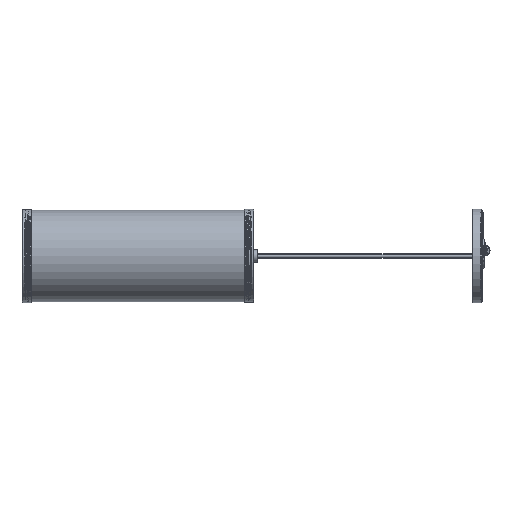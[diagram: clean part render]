
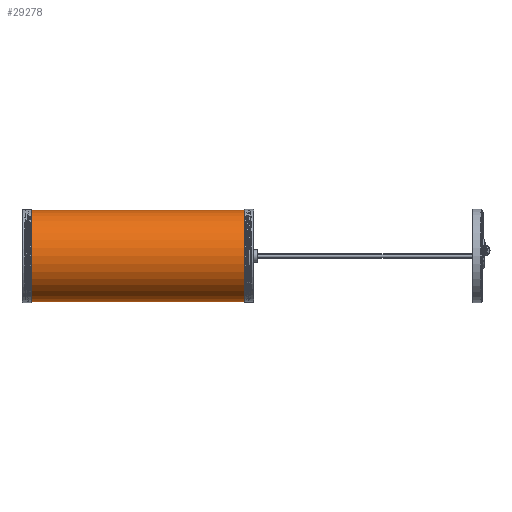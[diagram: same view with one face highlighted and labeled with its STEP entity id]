
A CAD part, left-side view. The second image highlights one B-rep face of the part: STEP entity #29278.
In plain terms, the highlighted cylindrical face has radius 147 mm (diameter 294 mm), a partial arc.
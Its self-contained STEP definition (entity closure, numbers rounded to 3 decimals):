
#543 = AXIS2_PLACEMENT_3D ( 'NONE', #2819, #28507, #48939 ) ;
#896 = CIRCLE ( 'NONE', #41923, 147. ) ;
#1218 = LINE ( 'NONE', #21373, #57476 ) ;
#1278 = CARTESIAN_POINT ( 'NONE',  ( 0., -353., 0. ) ) ;
#2715 = CARTESIAN_POINT ( 'NONE',  ( 0., 0., 147. ) ) ;
#2819 = CARTESIAN_POINT ( 'NONE',  ( 0., 0., 0. ) ) ;
#3428 = VECTOR ( 'NONE', #57783, 1000. ) ;
#7483 = DIRECTION ( 'NONE',  ( 0., 1., 0. ) ) ;
#16954 = CARTESIAN_POINT ( 'NONE',  ( 0., -353., -147. ) ) ;
#17596 = VERTEX_POINT ( 'NONE', #59951 ) ;
#19669 = ORIENTED_EDGE ( 'NONE', *, *, #34300, .T. ) ;
#20119 = DIRECTION ( 'NONE',  ( 0., -1., 0. ) ) ;
#20439 = CARTESIAN_POINT ( 'NONE',  ( 0., 353., 0. ) ) ;
#20478 = ORIENTED_EDGE ( 'NONE', *, *, #64877, .F. ) ;
#21373 = CARTESIAN_POINT ( 'NONE',  ( 0., 0., -147. ) ) ;
#21823 = EDGE_CURVE ( 'NONE', #22571, #23931, #22206, .T. ) ;
#22206 = LINE ( 'NONE', #2715, #3428 ) ;
#22571 = VERTEX_POINT ( 'NONE', #42437 ) ;
#23931 = VERTEX_POINT ( 'NONE', #36148 ) ;
#28507 = DIRECTION ( 'NONE',  ( 0., 1., 0. ) ) ;
#29278 = ADVANCED_FACE ( 'NONE', ( #38048 ), #38376, .T. ) ;
#33798 = EDGE_CURVE ( 'NONE', #23931, #17596, #896, .T. ) ;
#34300 = EDGE_CURVE ( 'NONE', #56364, #22571, #51392, .T. ) ;
#36148 = CARTESIAN_POINT ( 'NONE',  ( 0., 353., 147. ) ) ;
#38048 = FACE_OUTER_BOUND ( 'NONE', #38639, .T. ) ;
#38376 = CYLINDRICAL_SURFACE ( 'NONE', #543, 147. ) ;
#38639 = EDGE_LOOP ( 'NONE', ( #20478, #19669, #41817, #52042 ) ) ;
#41468 = DIRECTION ( 'NONE',  ( 0., 1., 0. ) ) ;
#41817 = ORIENTED_EDGE ( 'NONE', *, *, #21823, .T. ) ;
#41923 = AXIS2_PLACEMENT_3D ( 'NONE', #20439, #20119, #50063 ) ;
#42437 = CARTESIAN_POINT ( 'NONE',  ( 0., -353., 147. ) ) ;
#48939 = DIRECTION ( 'NONE',  ( 0., 0., 1. ) ) ;
#50063 = DIRECTION ( 'NONE',  ( 0., 0., 1. ) ) ;
#51392 = CIRCLE ( 'NONE', #59845, 147. ) ;
#52042 = ORIENTED_EDGE ( 'NONE', *, *, #33798, .T. ) ;
#56364 = VERTEX_POINT ( 'NONE', #16954 ) ;
#57476 = VECTOR ( 'NONE', #7483, 1000. ) ;
#57783 = DIRECTION ( 'NONE',  ( 0., 1., 0. ) ) ;
#59845 = AXIS2_PLACEMENT_3D ( 'NONE', #1278, #41468, #61591 ) ;
#59951 = CARTESIAN_POINT ( 'NONE',  ( 0., 353., -147. ) ) ;
#61591 = DIRECTION ( 'NONE',  ( 0., 0., 1. ) ) ;
#64877 = EDGE_CURVE ( 'NONE', #56364, #17596, #1218, .T. ) ;
